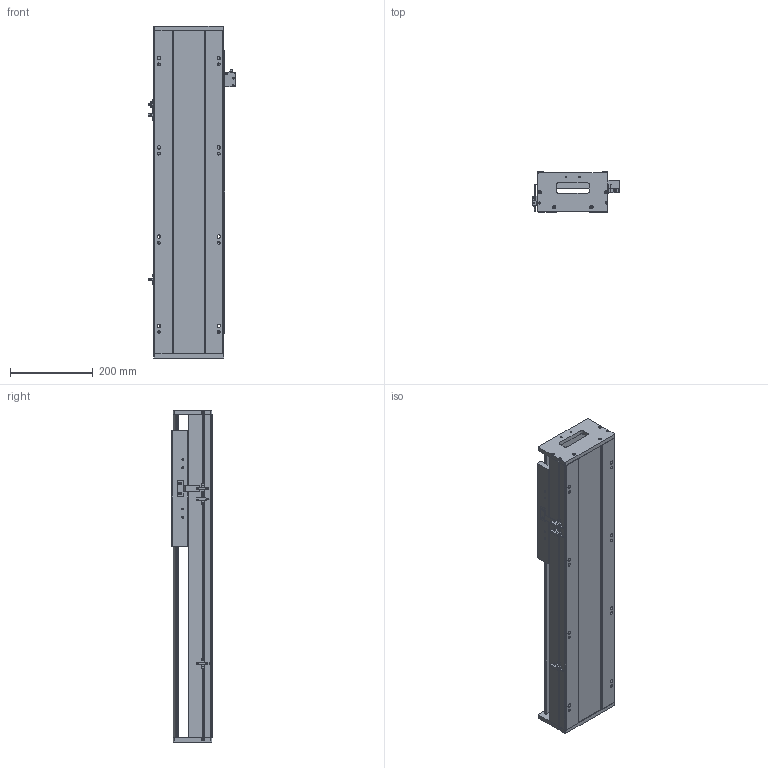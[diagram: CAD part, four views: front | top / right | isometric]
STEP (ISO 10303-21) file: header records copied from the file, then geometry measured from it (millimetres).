
FILE_DESCRIPTION (( 'STEP AP203' ), '1' );
FILE_NAME ('SKR17S-C2-S424（简）.STEP', '2022-09-29T07:34:47', ( '' ), ( '' ), 'SwSTEP 2.0', 'SolidWorks 2018', '' );
FILE_SCHEMA (( 'CONFIG_CONTROL_DESIGN' ));
Length unit declared in the file: millimetre
Products named in the file (8): SKR17滑台-280L（简）; SKR17耜啣; 感应片（SKR12S-14S-17S）; 棠掑假蚾輸; EE-SX672; SIKO棠掑; SKR17S-C2-S424（简）; SKR17菁釱-C2-S424(潠)
Assembly tree (10 placements, depth 2):
  SKR17S-C2-S424（简）
    SKR17菁釱-C2-S424(潠)
    SIKO棠掑
    EE-SX672  x3
    SKR17耜啣  x2
    棠掑假蚾輸
    SKR17滑台-280L（简）
    感应片（SKR12S-14S-17S）
Bounding box: 212.7 x 97 x 804 mm (x, y, z)
Volume: 6960063.6 mm3; surface area: 922213.8 mm2
Topology: 11 solids, 11 shells, 1000 faces, 2755 edges, 1769 vertices
Faces by surface type: cylinder 451, plane 439, cone 110
Entity records: 28963 total; most frequent: CARTESIAN_POINT 6783, ORIENTED_EDGE 4538, DIRECTION 4377, EDGE_CURVE 2269, AXIS2_PLACEMENT_3D 1547, VERTEX_POINT 1473, VECTOR 1283, LINE 1283
